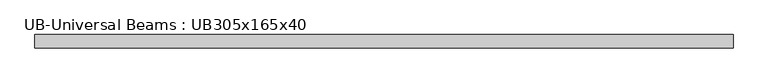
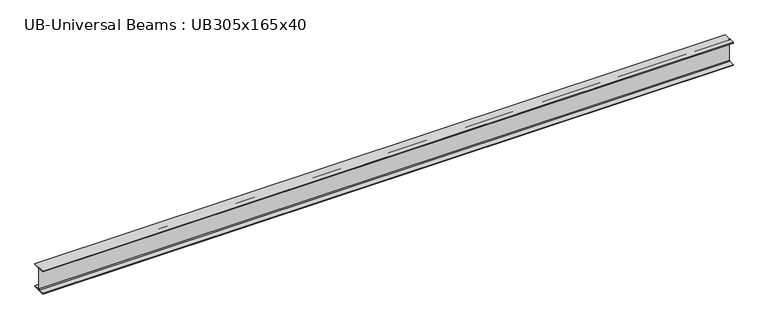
"""IFC4 building model written with IfcOpenShell, lengths in millimetres: beam geometry, UB-Universal Beams : UB305x165x40."""

from ifc_helpers import new_model, si_unit, point, frame, frame_2d, origin, place, context, project, spatial, polyline, circle_curve, trimmed, segment, composite_curve, outline, extrude, source, transform, mapped, element, save


def ub_universal_beams_ub305x165x40_08e823ad(model_context):
    return source(origin(), model_context, "Body", "SweptSolid", [
        extrude(outline(composite_curve([segment(polyline([(82.5, -141.5), (82.5, -151.7), (-82.5, -151.7), (-82.5, -141.5), (-11.9, -141.5)]), True, "CONTINUOUS"), segment(trimmed(circle_curve(frame_2d((-11.9, -132.6)), 8.9), [point((-11.9, -141.5))], [point((-3.0, -132.6))], True, "CARTESIAN"), True, "CONTINUOUS"), segment(polyline([(-3.0, -132.6), (-3.0, 132.6)]), True, "CONTINUOUS"), segment(trimmed(circle_curve(frame_2d((-11.9, 132.6)), 8.9), [point((-3.0, 132.6))], [point((-11.9, 141.5))], True, "CARTESIAN"), True, "CONTINUOUS"), segment(polyline([(-11.9, 141.5), (-82.5, 141.5), (-82.5, 151.7), (82.5, 151.7), (82.5, 141.5), (11.9, 141.5)]), True, "CONTINUOUS"), segment(trimmed(circle_curve(frame_2d((11.9, 132.6)), 8.9), [point((11.9, 141.5))], [point((3.0, 132.6))], True, "CARTESIAN"), True, "CONTINUOUS"), segment(polyline([(3.0, 132.6), (3.0, -132.6)]), True, "CONTINUOUS"), segment(trimmed(circle_curve(frame_2d((11.9, -132.6)), 8.9), [point((3.0, -132.6))], [point((11.9, -141.5))], True, "CARTESIAN"), True, "CONTINUOUS"), segment(polyline([(11.9, -141.5), (82.5, -141.5)]), True, "CONTINUOUS")], self_intersect=False)), frame((-4238.2, 0.0, 0.0), z_axis=(1.0, 0.0, 0.0), x_axis=(0.0, 1.0, 0.0)), (0.0, 0.0, 1.0), 8654.1),
    ])


if __name__ == "__main__":
    model = new_model("IFC4")
    model_context = context("Model", 3, world=origin())
    ifc_project = project(units=[si_unit("LENGTHUNIT", "METRE", prefix="MILLI")], contexts=[model_context])
    site = spatial("IfcSite", under=ifc_project)
    building = spatial("IfcBuilding", under=site)
    placement = place(None, origin())
    ub_universal_beams_ub305x165x40_shape = ub_universal_beams_ub305x165x40_08e823ad(model_context)
    element("IfcBeam", 1, ObjectType="UB-Universal Beams : UB305x165x40", at=placement, inside=building, context=model_context, shape_type="MappedRepresentation", body=[
        mapped(ub_universal_beams_ub305x165x40_shape, transform((0.0, 0.0, 0.0), x_axis=(1.0, 0.0, 0.0), y_axis=(0.0, 1.0, 0.0), z_axis=(0.0, 0.0, 1.0))),
    ])
    save(model, "model.ifc")
